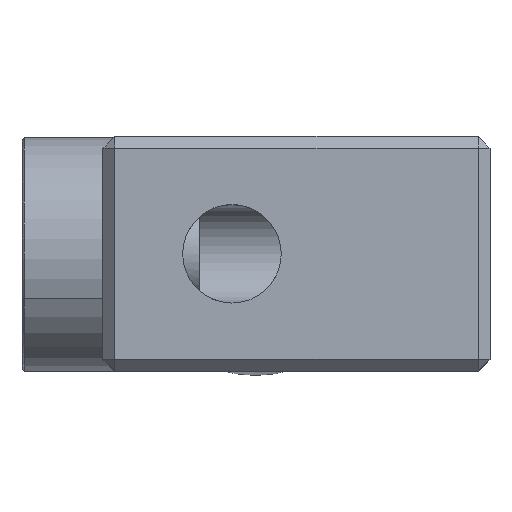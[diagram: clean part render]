
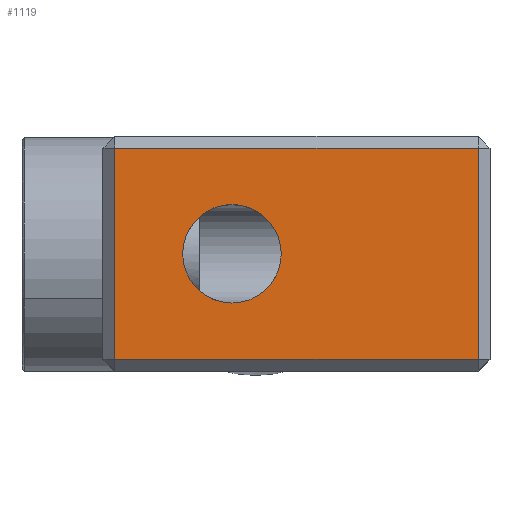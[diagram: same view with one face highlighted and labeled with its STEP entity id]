
A CAD part, top view. The second image highlights one B-rep face of the part: STEP entity #1119.
In plain terms, the highlighted planar face has unit normal (0, 0, 1) as drawn and (0, 1, 0) by its records, which use the part's own axes.
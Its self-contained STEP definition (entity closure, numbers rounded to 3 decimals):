
#112 = DIRECTION ( 'NONE',  ( 0., 0., 1. ) ) ;
#181 = AXIS2_PLACEMENT_3D ( 'NONE', #3636, #4241, #6691 ) ;
#554 = VERTEX_POINT ( 'NONE', #6016 ) ;
#560 = CARTESIAN_POINT ( 'NONE',  ( 1.085, 34.272, 4.445 ) ) ;
#937 = LINE ( 'NONE', #4121, #5416 ) ;
#964 = VECTOR ( 'NONE', #2155, 1000. ) ;
#971 = ORIENTED_EDGE ( 'NONE', *, *, #7105, .T. ) ;
#1119 = ADVANCED_FACE ( 'NONE', ( #4037, #1183 ), #1786, .T. ) ;
#1183 = FACE_BOUND ( 'NONE', #3058, .T. ) ;
#1448 = ORIENTED_EDGE ( 'NONE', *, *, #4738, .T. ) ;
#1583 = DIRECTION ( 'NONE',  ( 0., 0., 1. ) ) ;
#1584 = LINE ( 'NONE', #2232, #3623 ) ;
#1589 = VERTEX_POINT ( 'NONE', #560 ) ;
#1607 = DIRECTION ( 'NONE',  ( 0., 0., 1. ) ) ;
#1786 = PLANE ( 'NONE',  #181 ) ;
#1905 = LINE ( 'NONE', #4359, #3286 ) ;
#2004 = EDGE_LOOP ( 'NONE', ( #7165, #1448, #971, #4046 ) ) ;
#2155 = DIRECTION ( 'NONE',  ( -1., 0., 0. ) ) ;
#2192 = CARTESIAN_POINT ( 'NONE',  ( 5.585, 34.272, -0.555 ) ) ;
#2232 = CARTESIAN_POINT ( 'NONE',  ( 10.585, 34.272, 4.445 ) ) ;
#2463 = ORIENTED_EDGE ( 'NONE', *, *, #6840, .F. ) ;
#2560 = CARTESIAN_POINT ( 'NONE',  ( 5.585, 34.272, 1.545 ) ) ;
#3058 = EDGE_LOOP ( 'NONE', ( #2463, #6043 ) ) ;
#3286 = VECTOR ( 'NONE', #1607, 1000. ) ;
#3623 = VECTOR ( 'NONE', #4686, 1000. ) ;
#3636 = CARTESIAN_POINT ( 'NONE',  ( 0.585, 34.272, -11.555 ) ) ;
#3648 = EDGE_CURVE ( 'NONE', #554, #6232, #5922, .T. ) ;
#4037 = FACE_OUTER_BOUND ( 'NONE', #2004, .T. ) ;
#4046 = ORIENTED_EDGE ( 'NONE', *, *, #4984, .T. ) ;
#4121 = CARTESIAN_POINT ( 'NONE',  ( 10.085, 34.272, -11.555 ) ) ;
#4241 = DIRECTION ( 'NONE',  ( 0., 1., 0. ) ) ;
#4294 = CARTESIAN_POINT ( 'NONE',  ( 1.085, 34.272, -11.055 ) ) ;
#4346 = DIRECTION ( 'NONE',  ( 0., 1., 0. ) ) ;
#4359 = CARTESIAN_POINT ( 'NONE',  ( 1.085, 34.272, -11.555 ) ) ;
#4574 = CARTESIAN_POINT ( 'NONE',  ( 10.085, 34.272, 4.445 ) ) ;
#4686 = DIRECTION ( 'NONE',  ( 1., 0., 0. ) ) ;
#4738 = EDGE_CURVE ( 'NONE', #5559, #7882, #937, .T. ) ;
#4789 = EDGE_CURVE ( 'NONE', #1589, #5559, #1584, .T. ) ;
#4984 = EDGE_CURVE ( 'NONE', #5629, #1589, #1905, .T. ) ;
#5416 = VECTOR ( 'NONE', #5810, 1000. ) ;
#5559 = VERTEX_POINT ( 'NONE', #4574 ) ;
#5629 = VERTEX_POINT ( 'NONE', #4294 ) ;
#5810 = DIRECTION ( 'NONE',  ( 0., 0., -1. ) ) ;
#5841 = AXIS2_PLACEMENT_3D ( 'NONE', #2192, #7009, #1583 ) ;
#5922 = CIRCLE ( 'NONE', #6047, 2.1 ) ;
#6016 = CARTESIAN_POINT ( 'NONE',  ( 5.585, 34.272, -2.655 ) ) ;
#6043 = ORIENTED_EDGE ( 'NONE', *, *, #3648, .F. ) ;
#6047 = AXIS2_PLACEMENT_3D ( 'NONE', #6829, #4346, #112 ) ;
#6232 = VERTEX_POINT ( 'NONE', #2560 ) ;
#6515 = CARTESIAN_POINT ( 'NONE',  ( 10.085, 34.272, -11.055 ) ) ;
#6534 = CARTESIAN_POINT ( 'NONE',  ( 0.585, 34.272, -11.055 ) ) ;
#6691 = DIRECTION ( 'NONE',  ( 0., 0., 1. ) ) ;
#6829 = CARTESIAN_POINT ( 'NONE',  ( 5.585, 34.272, -0.555 ) ) ;
#6840 = EDGE_CURVE ( 'NONE', #6232, #554, #7248, .T. ) ;
#7009 = DIRECTION ( 'NONE',  ( 0., 1., 0. ) ) ;
#7094 = LINE ( 'NONE', #6534, #964 ) ;
#7105 = EDGE_CURVE ( 'NONE', #7882, #5629, #7094, .T. ) ;
#7165 = ORIENTED_EDGE ( 'NONE', *, *, #4789, .T. ) ;
#7248 = CIRCLE ( 'NONE', #5841, 2.1 ) ;
#7882 = VERTEX_POINT ( 'NONE', #6515 ) ;
